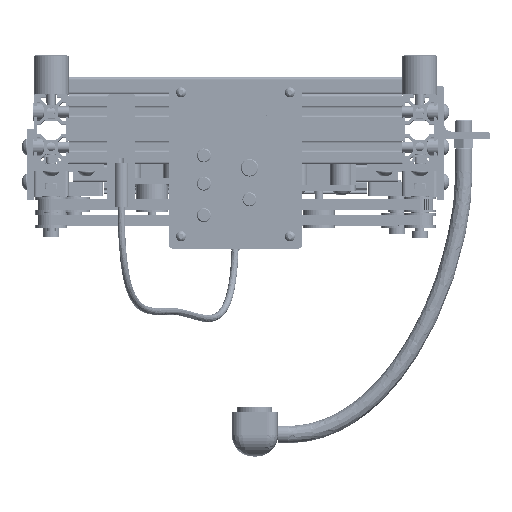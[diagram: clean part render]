
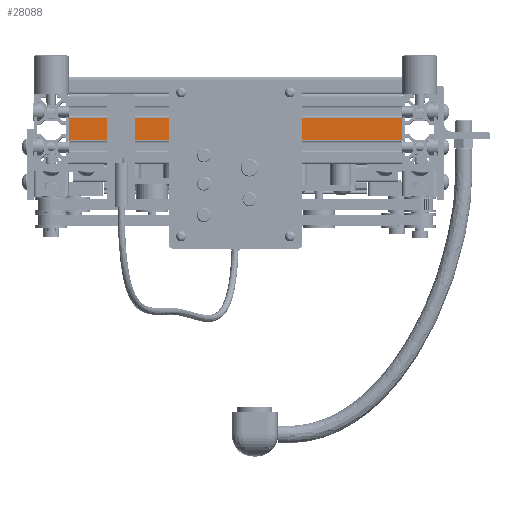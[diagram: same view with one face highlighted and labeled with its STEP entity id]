
A CAD part, top view. The second image highlights one B-rep face of the part: STEP entity #28088.
In plain terms, the highlighted planar face has unit normal (0, 0, 1) as drawn and (0, -1, 0) by its records, which use the part's own axes.
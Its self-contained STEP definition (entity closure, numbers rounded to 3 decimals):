
#21765 = PLANE('',#21766);
#21766 = AXIS2_PLACEMENT_3D('',#21767,#21768,#21769);
#21767 = CARTESIAN_POINT('',(16.045,4.301,0.));
#21768 = DIRECTION('',(0.,0.,1.));
#21769 = DIRECTION('',(1.,0.,0.));
#23901 = VERTEX_POINT('',#23902);
#23902 = CARTESIAN_POINT('',(-6.4,-10.,0.));
#23916 = PLANE('',#23917);
#23917 = AXIS2_PLACEMENT_3D('',#23918,#23919,#23920);
#23918 = CARTESIAN_POINT('',(-6.4,-9.5,0.));
#23919 = DIRECTION('',(1.,0.,0.));
#23920 = DIRECTION('',(0.,-1.,0.));
#23928 = EDGE_CURVE('',#23901,#23929,#23931,.T.);
#23929 = VERTEX_POINT('',#23930);
#23930 = CARTESIAN_POINT('',(6.4,-10.,0.));
#23931 = SURFACE_CURVE('',#23932,(#23936,#23943),.PCURVE_S1.);
#23932 = LINE('',#23933,#23934);
#23933 = CARTESIAN_POINT('',(-6.4,-10.,0.));
#23934 = VECTOR('',#23935,1.);
#23935 = DIRECTION('',(1.,0.,0.));
#23936 = PCURVE('',#21765,#23937);
#23937 = DEFINITIONAL_REPRESENTATION('',(#23938),#23942);
#23938 = LINE('',#23939,#23940);
#23939 = CARTESIAN_POINT('',(-22.445,-14.301));
#23940 = VECTOR('',#23941,1.);
#23941 = DIRECTION('',(1.,0.));
#23942 = ( GEOMETRIC_REPRESENTATION_CONTEXT(2) 
PARAMETRIC_REPRESENTATION_CONTEXT() REPRESENTATION_CONTEXT('2D SPACE',''
  ) );
#23943 = PCURVE('',#23944,#23949);
#23944 = PLANE('',#23945);
#23945 = AXIS2_PLACEMENT_3D('',#23946,#23947,#23948);
#23946 = CARTESIAN_POINT('',(-6.4,-10.,0.));
#23947 = DIRECTION('',(0.,1.,0.));
#23948 = DIRECTION('',(1.,0.,0.));
#23949 = DEFINITIONAL_REPRESENTATION('',(#23950),#23954);
#23950 = LINE('',#23951,#23952);
#23951 = CARTESIAN_POINT('',(0.,0.));
#23952 = VECTOR('',#23953,1.);
#23953 = DIRECTION('',(1.,0.));
#23954 = ( GEOMETRIC_REPRESENTATION_CONTEXT(2) 
PARAMETRIC_REPRESENTATION_CONTEXT() REPRESENTATION_CONTEXT('2D SPACE',''
  ) );
#23972 = PLANE('',#23973);
#23973 = AXIS2_PLACEMENT_3D('',#23974,#23975,#23976);
#23974 = CARTESIAN_POINT('',(6.4,-9.5,0.));
#23975 = DIRECTION('',(1.,0.,-0.));
#23976 = DIRECTION('',(0.,-1.,0.));
#25390 = PLANE('',#25391);
#25391 = AXIS2_PLACEMENT_3D('',#25392,#25393,#25394);
#25392 = CARTESIAN_POINT('',(16.045,4.301,190.));
#25393 = DIRECTION('',(0.,0.,1.));
#25394 = DIRECTION('',(1.,0.,0.));
#27996 = VERTEX_POINT('',#27997);
#27997 = CARTESIAN_POINT('',(6.4,-10.,190.));
#28018 = EDGE_CURVE('',#23929,#27996,#28019,.T.);
#28019 = SURFACE_CURVE('',#28020,(#28024,#28031),.PCURVE_S1.);
#28020 = LINE('',#28021,#28022);
#28021 = CARTESIAN_POINT('',(6.4,-10.,0.));
#28022 = VECTOR('',#28023,1.);
#28023 = DIRECTION('',(0.,0.,1.));
#28024 = PCURVE('',#23972,#28025);
#28025 = DEFINITIONAL_REPRESENTATION('',(#28026),#28030);
#28026 = LINE('',#28027,#28028);
#28027 = CARTESIAN_POINT('',(0.5,0.));
#28028 = VECTOR('',#28029,1.);
#28029 = DIRECTION('',(0.,-1.));
#28030 = ( GEOMETRIC_REPRESENTATION_CONTEXT(2) 
PARAMETRIC_REPRESENTATION_CONTEXT() REPRESENTATION_CONTEXT('2D SPACE',''
  ) );
#28031 = PCURVE('',#23944,#28032);
#28032 = DEFINITIONAL_REPRESENTATION('',(#28033),#28037);
#28033 = LINE('',#28034,#28035);
#28034 = CARTESIAN_POINT('',(12.8,0.));
#28035 = VECTOR('',#28036,1.);
#28036 = DIRECTION('',(0.,-1.));
#28037 = ( GEOMETRIC_REPRESENTATION_CONTEXT(2) 
PARAMETRIC_REPRESENTATION_CONTEXT() REPRESENTATION_CONTEXT('2D SPACE',''
  ) );
#28088 = ADVANCED_FACE('',(#28089),#23944,.F.);
#28089 = FACE_BOUND('',#28090,.F.);
#28090 = EDGE_LOOP('',(#28091,#28114,#28135,#28136));
#28091 = ORIENTED_EDGE('',*,*,#28092,.T.);
#28092 = EDGE_CURVE('',#23901,#28093,#28095,.T.);
#28093 = VERTEX_POINT('',#28094);
#28094 = CARTESIAN_POINT('',(-6.4,-10.,190.));
#28095 = SURFACE_CURVE('',#28096,(#28100,#28107),.PCURVE_S1.);
#28096 = LINE('',#28097,#28098);
#28097 = CARTESIAN_POINT('',(-6.4,-10.,0.));
#28098 = VECTOR('',#28099,1.);
#28099 = DIRECTION('',(0.,0.,1.));
#28100 = PCURVE('',#23944,#28101);
#28101 = DEFINITIONAL_REPRESENTATION('',(#28102),#28106);
#28102 = LINE('',#28103,#28104);
#28103 = CARTESIAN_POINT('',(0.,0.));
#28104 = VECTOR('',#28105,1.);
#28105 = DIRECTION('',(0.,-1.));
#28106 = ( GEOMETRIC_REPRESENTATION_CONTEXT(2) 
PARAMETRIC_REPRESENTATION_CONTEXT() REPRESENTATION_CONTEXT('2D SPACE',''
  ) );
#28107 = PCURVE('',#23916,#28108);
#28108 = DEFINITIONAL_REPRESENTATION('',(#28109),#28113);
#28109 = LINE('',#28110,#28111);
#28110 = CARTESIAN_POINT('',(0.5,0.));
#28111 = VECTOR('',#28112,1.);
#28112 = DIRECTION('',(0.,-1.));
#28113 = ( GEOMETRIC_REPRESENTATION_CONTEXT(2) 
PARAMETRIC_REPRESENTATION_CONTEXT() REPRESENTATION_CONTEXT('2D SPACE',''
  ) );
#28114 = ORIENTED_EDGE('',*,*,#28115,.T.);
#28115 = EDGE_CURVE('',#28093,#27996,#28116,.T.);
#28116 = SURFACE_CURVE('',#28117,(#28121,#28128),.PCURVE_S1.);
#28117 = LINE('',#28118,#28119);
#28118 = CARTESIAN_POINT('',(-6.4,-10.,190.));
#28119 = VECTOR('',#28120,1.);
#28120 = DIRECTION('',(1.,0.,0.));
#28121 = PCURVE('',#23944,#28122);
#28122 = DEFINITIONAL_REPRESENTATION('',(#28123),#28127);
#28123 = LINE('',#28124,#28125);
#28124 = CARTESIAN_POINT('',(0.,-190.));
#28125 = VECTOR('',#28126,1.);
#28126 = DIRECTION('',(1.,0.));
#28127 = ( GEOMETRIC_REPRESENTATION_CONTEXT(2) 
PARAMETRIC_REPRESENTATION_CONTEXT() REPRESENTATION_CONTEXT('2D SPACE',''
  ) );
#28128 = PCURVE('',#25390,#28129);
#28129 = DEFINITIONAL_REPRESENTATION('',(#28130),#28134);
#28130 = LINE('',#28131,#28132);
#28131 = CARTESIAN_POINT('',(-22.445,-14.301));
#28132 = VECTOR('',#28133,1.);
#28133 = DIRECTION('',(1.,0.));
#28134 = ( GEOMETRIC_REPRESENTATION_CONTEXT(2) 
PARAMETRIC_REPRESENTATION_CONTEXT() REPRESENTATION_CONTEXT('2D SPACE',''
  ) );
#28135 = ORIENTED_EDGE('',*,*,#28018,.F.);
#28136 = ORIENTED_EDGE('',*,*,#23928,.F.);
